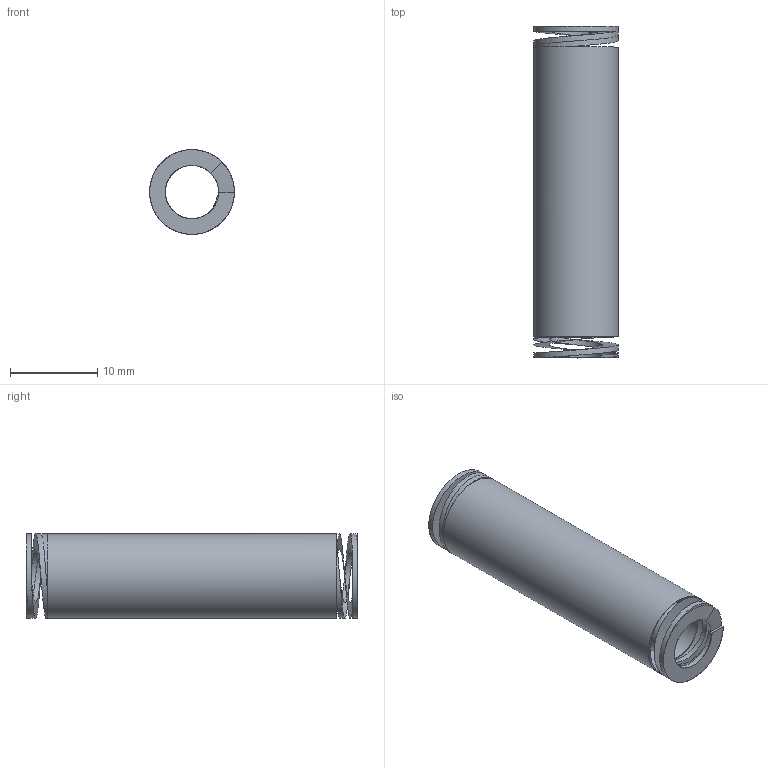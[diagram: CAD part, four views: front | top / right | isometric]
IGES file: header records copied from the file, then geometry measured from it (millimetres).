
Global section: file name: 2S10038; native system: Autodesk Inventor 2026; preprocessor: unknown; author: J. Iwanek; date: 20261007.112359; units: millimetre
Bounding box: 9.7 x 38 x 9.7 mm (x, y, z)
Volume: 753.3 mm3; surface area: 1961.6 mm2
Topology: 1 solids, 1 shells, 22 faces, 76 edges, 47 vertices
Faces by surface type: bspline 22
